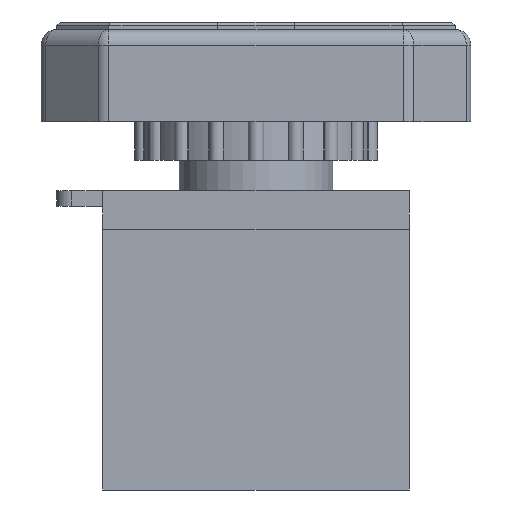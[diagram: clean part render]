
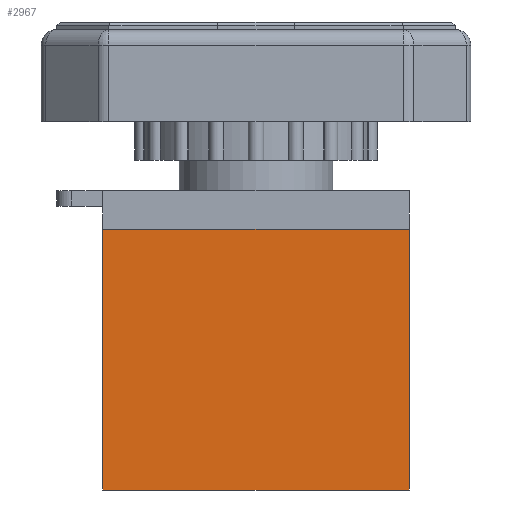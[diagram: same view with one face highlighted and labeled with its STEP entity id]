
A CAD part, front view. The second image highlights one B-rep face of the part: STEP entity #2967.
In plain terms, the highlighted planar face has unit normal (0, -1, 0).
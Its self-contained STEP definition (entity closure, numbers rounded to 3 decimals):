
#209=FACE_OUTER_BOUND('',#390,.T.);
#390=EDGE_LOOP('',(#1979,#1980,#1981,#1982));
#572=LINE('',#4371,#906);
#574=LINE('',#4375,#908);
#577=LINE('',#4380,#911);
#578=LINE('',#4382,#912);
#906=VECTOR('',#3454,10.);
#908=VECTOR('',#3458,10.);
#911=VECTOR('',#3463,10.);
#912=VECTOR('',#3466,10.);
#1239=VERTEX_POINT('',#4368);
#1240=VERTEX_POINT('',#4370);
#1241=VERTEX_POINT('',#4374);
#1242=VERTEX_POINT('',#4378);
#1522=EDGE_CURVE('',#1240,#1239,#572,.T.);
#1524=EDGE_CURVE('',#1241,#1240,#574,.T.);
#1527=EDGE_CURVE('',#1242,#1239,#577,.T.);
#1528=EDGE_CURVE('',#1241,#1242,#578,.T.);
#1979=ORIENTED_EDGE('',*,*,#1524,.T.);
#1980=ORIENTED_EDGE('',*,*,#1522,.T.);
#1981=ORIENTED_EDGE('',*,*,#1527,.F.);
#1982=ORIENTED_EDGE('',*,*,#1528,.F.);
#2848=PLANE('',#3159);
#2967=ADVANCED_FACE('',(#209),#2848,.T.);
#3159=AXIS2_PLACEMENT_3D('',#4383,#3467,#3468);
#3454=DIRECTION('',(0.,0.,1.));
#3458=DIRECTION('',(1.,0.,0.));
#3463=DIRECTION('',(1.,0.,0.));
#3466=DIRECTION('',(0.,0.,1.));
#3467=DIRECTION('center_axis',(0.,-1.,0.));
#3468=DIRECTION('ref_axis',(1.,0.,0.));
#4368=CARTESIAN_POINT('',(20.,-15.5,34.));
#4370=CARTESIAN_POINT('',(20.,-15.5,0.));
#4371=CARTESIAN_POINT('',(20.,-15.5,0.));
#4374=CARTESIAN_POINT('',(-20.,-15.5,0.));
#4375=CARTESIAN_POINT('',(-20.,-15.5,0.));
#4378=CARTESIAN_POINT('',(-20.,-15.5,34.));
#4380=CARTESIAN_POINT('',(-20.,-15.5,34.));
#4382=CARTESIAN_POINT('',(-20.,-15.5,0.));
#4383=CARTESIAN_POINT('Origin',(-20.,-15.5,0.));
